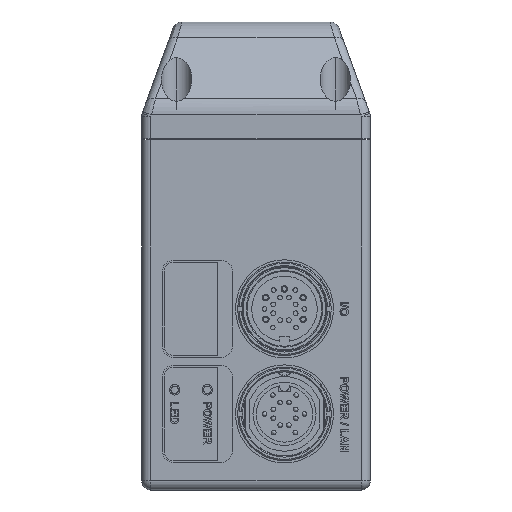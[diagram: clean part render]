
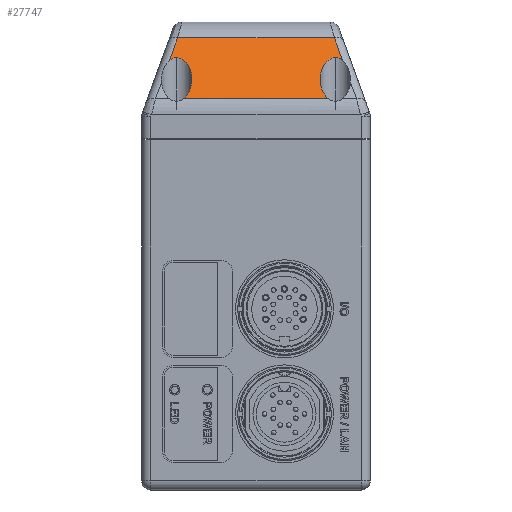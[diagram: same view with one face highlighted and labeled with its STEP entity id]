
A CAD part, left-side view. The second image highlights one B-rep face of the part: STEP entity #27747.
In plain terms, the highlighted planar face has unit normal (-0.819, 0, 0.574).
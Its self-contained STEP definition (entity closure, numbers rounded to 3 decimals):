
#358 = EDGE_CURVE ( 'NONE', #12818, #20428, #6857, .T. ) ;
#3174 = EDGE_CURVE ( 'NONE', #23015, #39468, #15672, .T. ) ;
#3396 = CARTESIAN_POINT ( 'NONE',  ( -70.25, 12.647, -1.646 ) ) ;
#3466 = LINE ( 'NONE', #14013, #45597 ) ;
#3723 =( BOUNDED_CURVE ( )  B_SPLINE_CURVE ( 3, ( #20169, #48630, #32421, #7952 ),
 .UNSPECIFIED., .F., .F. ) 
 B_SPLINE_CURVE_WITH_KNOTS ( ( 4, 4 ),
 ( 0., 0.491 ),
 .UNSPECIFIED. ) 
 CURVE ( )  GEOMETRIC_REPRESENTATION_ITEM ( )  RATIONAL_B_SPLINE_CURVE ( ( 1., 0.98, 0.98, 1. ) ) 
 REPRESENTATION_ITEM ( '' )  );
#4537 = ORIENTED_EDGE ( 'NONE', *, *, #3174, .T. ) ;
#5403 = CARTESIAN_POINT ( 'NONE',  ( -70.633, 18.531, -2.193 ) ) ;
#6857 =( BOUNDED_CURVE ( )  B_SPLINE_CURVE ( 3, ( #11651, #3396, #33504, #30094 ),
 .UNSPECIFIED., .F., .T. ) 
 B_SPLINE_CURVE_WITH_KNOTS ( ( 4, 4 ),
 ( 0., 2.683 ),
 .UNSPECIFIED. ) 
 CURVE ( )  GEOMETRIC_REPRESENTATION_ITEM ( )  RATIONAL_B_SPLINE_CURVE ( ( 1., 0.485, 0.485, 1. ) ) 
 REPRESENTATION_ITEM ( '' )  );
#6935 = CARTESIAN_POINT ( 'NONE',  ( -70.25, 17., -1.646 ) ) ;
#7890 = PLANE ( 'NONE',  #39417 ) ;
#7952 = CARTESIAN_POINT ( 'NONE',  ( -70.633, -18.531, -2.193 ) ) ;
#8849 = DIRECTION ( 'NONE',  ( -0.55, 0.286, -0.785 ) ) ;
#9233 = CARTESIAN_POINT ( 'NONE',  ( -70.25, 17., -1.646 ) ) ;
#11084 = FACE_OUTER_BOUND ( 'NONE', #50673, .T. ) ;
#11412 = VECTOR ( 'NONE', #8849, 1000. ) ;
#11651 = CARTESIAN_POINT ( 'NONE',  ( -70.25, 17., -1.646 ) ) ;
#12046 = DIRECTION ( 'NONE',  ( -0.574, 0., -0.819 ) ) ;
#12407 = VERTEX_POINT ( 'NONE', #37887 ) ;
#12680 = LINE ( 'NONE', #29223, #11412 ) ;
#12818 = VERTEX_POINT ( 'NONE', #6935 ) ;
#13061 = VERTEX_POINT ( 'NONE', #37586 ) ;
#14013 = CARTESIAN_POINT ( 'NONE',  ( -76.415, 24.5, -10.45 ) ) ;
#15004 = EDGE_CURVE ( 'NONE', #19706, #12818, #25629, .T. ) ;
#15672 = LINE ( 'NONE', #25192, #37280 ) ;
#16841 = CARTESIAN_POINT ( 'NONE',  ( -70.25, -17., -1.646 ) ) ;
#16848 = EDGE_CURVE ( 'NONE', #20428, #12407, #3466, .T. ) ;
#19706 = VERTEX_POINT ( 'NONE', #5403 ) ;
#20169 = CARTESIAN_POINT ( 'NONE',  ( -70.25, -17., -1.646 ) ) ;
#20428 = VERTEX_POINT ( 'NONE', #51774 ) ;
#20727 = VERTEX_POINT ( 'NONE', #37925 ) ;
#22598 = ORIENTED_EDGE ( 'NONE', *, *, #16848, .T. ) ;
#22626 = DIRECTION ( 'NONE',  ( 0.55, 0.286, 0.785 ) ) ;
#23015 = VERTEX_POINT ( 'NONE', #42626 ) ;
#23313 = EDGE_CURVE ( 'NONE', #39468, #19706, #12680, .T. ) ;
#24717 = LINE ( 'NONE', #26551, #46402 ) ;
#24844 = CARTESIAN_POINT ( 'NONE',  ( -74.49, -11.658, -7.701 ) ) ;
#25192 = CARTESIAN_POINT ( 'NONE',  ( -67.285, 24.5, 2.589 ) ) ;
#25629 =( BOUNDED_CURVE ( )  B_SPLINE_CURVE ( 3, ( #33148, #49914, #33654, #9233 ),
 .UNSPECIFIED., .F., .F. ) 
 B_SPLINE_CURVE_WITH_KNOTS ( ( 4, 4 ),
 ( 5.793, 6.283 ),
 .UNSPECIFIED. ) 
 CURVE ( )  GEOMETRIC_REPRESENTATION_ITEM ( )  RATIONAL_B_SPLINE_CURVE ( ( 1., 0.98, 0.98, 1. ) ) 
 REPRESENTATION_ITEM ( '' )  );
#26551 = CARTESIAN_POINT ( 'NONE',  ( -58.607, -12.28, 14.983 ) ) ;
#27747 = ADVANCED_FACE ( 'NONE', ( #11084 ), #7890, .F. ) ;
#28943 = CARTESIAN_POINT ( 'NONE',  ( -76.415, -15.563, -10.45 ) ) ;
#29223 = CARTESIAN_POINT ( 'NONE',  ( -66.302, 16.28, 3.992 ) ) ;
#30094 = CARTESIAN_POINT ( 'NONE',  ( -76.415, 15.563, -10.45 ) ) ;
#32421 = CARTESIAN_POINT ( 'NONE',  ( -70.38, -18.058, -1.832 ) ) ;
#33148 = CARTESIAN_POINT ( 'NONE',  ( -70.633, 18.531, -2.193 ) ) ;
#33504 = CARTESIAN_POINT ( 'NONE',  ( -74.49, 11.658, -7.701 ) ) ;
#33654 = CARTESIAN_POINT ( 'NONE',  ( -70.25, 17.537, -1.646 ) ) ;
#36269 = CARTESIAN_POINT ( 'NONE',  ( -64.896, 24.5, 6. ) ) ;
#36456 = DIRECTION ( 'NONE',  ( 0.819, 0., -0.574 ) ) ;
#37053 = ORIENTED_EDGE ( 'NONE', *, *, #40787, .T. ) ;
#37280 = VECTOR ( 'NONE', #45318, 1000. ) ;
#37586 = CARTESIAN_POINT ( 'NONE',  ( -70.25, -17., -1.646 ) ) ;
#37748 = ORIENTED_EDGE ( 'NONE', *, *, #39918, .T. ) ;
#37887 = CARTESIAN_POINT ( 'NONE',  ( -76.415, -15.563, -10.45 ) ) ;
#37925 = CARTESIAN_POINT ( 'NONE',  ( -70.633, -18.531, -2.193 ) ) ;
#39417 = AXIS2_PLACEMENT_3D ( 'NONE', #36269, #36456, #12046 ) ;
#39468 = VERTEX_POINT ( 'NONE', #51039 ) ;
#39918 = EDGE_CURVE ( 'NONE', #20727, #23015, #24717, .T. ) ;
#40374 = ORIENTED_EDGE ( 'NONE', *, *, #15004, .T. ) ;
#40516 = ORIENTED_EDGE ( 'NONE', *, *, #358, .T. ) ;
#40787 = EDGE_CURVE ( 'NONE', #12407, #13061, #45839, .T. ) ;
#41237 = CARTESIAN_POINT ( 'NONE',  ( -70.25, -12.647, -1.646 ) ) ;
#42626 = CARTESIAN_POINT ( 'NONE',  ( -67.285, -16.791, 2.589 ) ) ;
#44044 = EDGE_CURVE ( 'NONE', #13061, #20727, #3723, .T. ) ;
#45318 = DIRECTION ( 'NONE',  ( 0., 1., 0. ) ) ;
#45597 = VECTOR ( 'NONE', #50768, 1000. ) ;
#45839 =( BOUNDED_CURVE ( )  B_SPLINE_CURVE ( 3, ( #28943, #24844, #41237, #16841 ),
 .UNSPECIFIED., .F., .F. ) 
 B_SPLINE_CURVE_WITH_KNOTS ( ( 4, 4 ),
 ( 3.6, 6.283 ),
 .UNSPECIFIED. ) 
 CURVE ( )  GEOMETRIC_REPRESENTATION_ITEM ( )  RATIONAL_B_SPLINE_CURVE ( ( 1., 0.485, 0.485, 1. ) ) 
 REPRESENTATION_ITEM ( '' )  );
#46402 = VECTOR ( 'NONE', #22626, 1000. ) ;
#48630 = CARTESIAN_POINT ( 'NONE',  ( -70.25, -17.537, -1.646 ) ) ;
#48967 = ORIENTED_EDGE ( 'NONE', *, *, #23313, .T. ) ;
#49914 = CARTESIAN_POINT ( 'NONE',  ( -70.38, 18.058, -1.832 ) ) ;
#50673 = EDGE_LOOP ( 'NONE', ( #48967, #40374, #40516, #22598, #37053, #52411, #37748, #4537 ) ) ;
#50768 = DIRECTION ( 'NONE',  ( 0., -1., 0. ) ) ;
#51039 = CARTESIAN_POINT ( 'NONE',  ( -67.285, 16.791, 2.589 ) ) ;
#51774 = CARTESIAN_POINT ( 'NONE',  ( -76.415, 15.563, -10.45 ) ) ;
#52411 = ORIENTED_EDGE ( 'NONE', *, *, #44044, .T. ) ;
